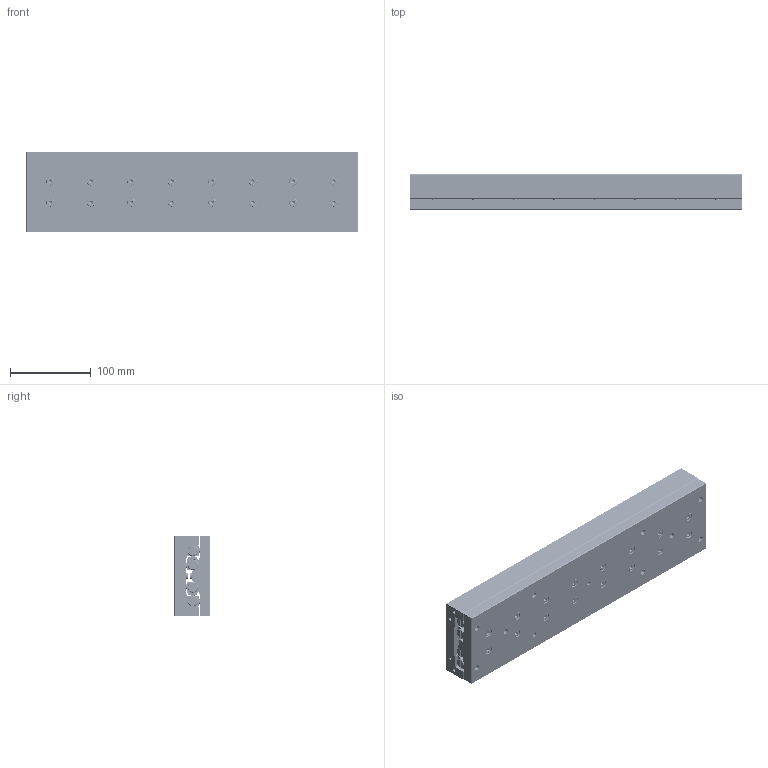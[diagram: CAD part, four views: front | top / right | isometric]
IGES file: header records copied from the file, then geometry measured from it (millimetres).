
Start section: SolidWorks IGES file using analytic representation for surfaces
Global section: file name: C:\Documents and Settings\IanO.IANOHOME\My Documents\Wix and Auto CAD Work\CAD Models\Parametric Models\Auto Models\L1020\L1020_IGES\L1020.100-410.igs; native system: SolidWorks 2009; preprocessor: SolidWorks 2009; author: IanO; date: 110922.163054; units: millimetre
Bounding box: 410 x 45 x 100 mm (x, y, z)
Surface area: 407319.5 mm2 (no closed solid volume)
Topology: 0 solids, 0 shells, 2462 faces, 36320 edges, 36240 vertices
Faces by surface type: bspline 1526, revolution 936
